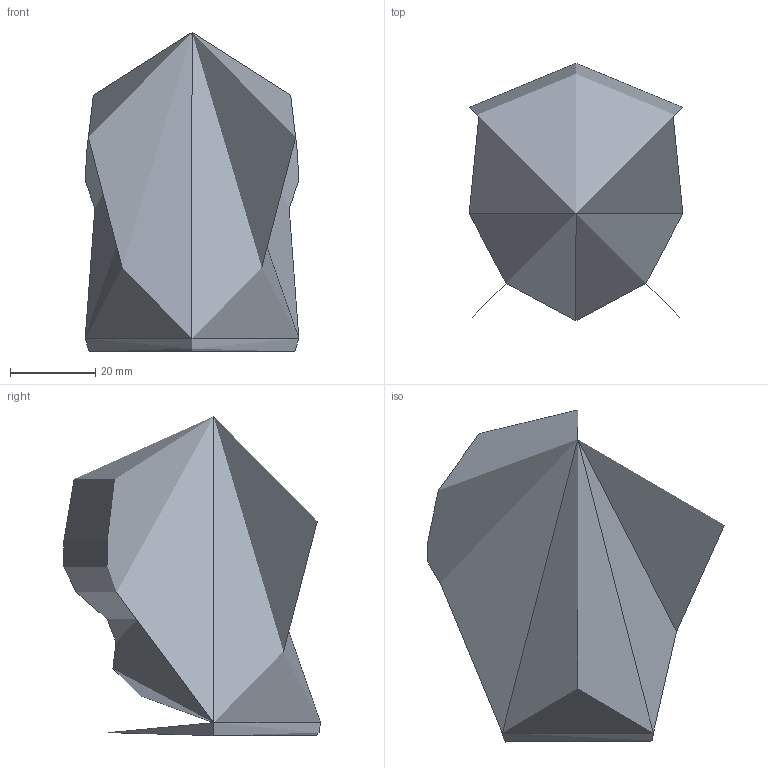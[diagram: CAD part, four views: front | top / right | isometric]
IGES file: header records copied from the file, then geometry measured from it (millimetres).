
Global section: file name: C:\Users\colombo_c\Desktop\Danese\Sito\3D mancanti\Pebosto peso\Pebosto peso S.igs; native system: Rhinoceros ( Apr 16 2024 ); preprocessor: Trout Lake IGES 012 Apr 16 2024; date: 250718.093737; units: millimetre
Bounding box: 50.2 x 60.38 x 75 mm (x, y, z)
Surface area: 20420.5 mm2 (no closed solid volume)
Topology: 0 solids, 0 shells, 8 faces, 34 edges, 28 vertices
Faces by surface type: bspline 8
